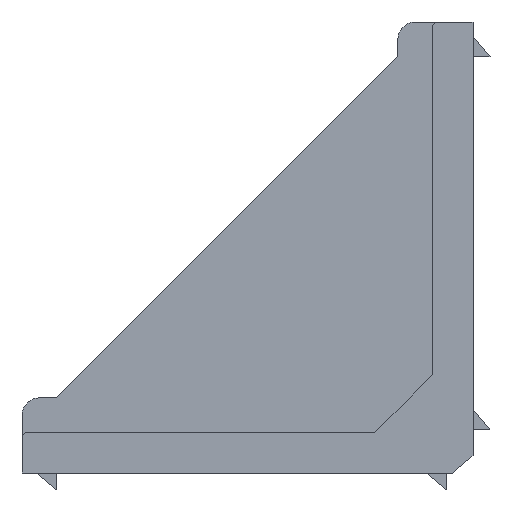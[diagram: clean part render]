
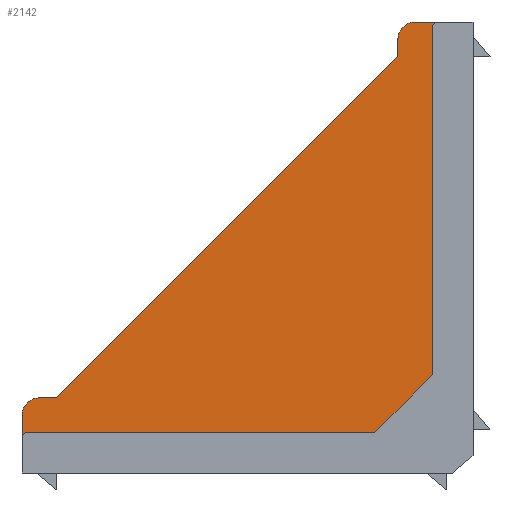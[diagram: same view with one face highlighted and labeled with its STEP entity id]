
A CAD part, left-side view. The second image highlights one B-rep face of the part: STEP entity #2142.
In plain terms, the highlighted planar face has unit normal (-1, 0, 0).
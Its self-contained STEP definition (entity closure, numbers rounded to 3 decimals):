
#38 = CARTESIAN_POINT ( 'NONE',  ( 16., 75., 13. ) ) ;
#50 = ORIENTED_EDGE ( 'NONE', *, *, #2059, .T. ) ;
#79 = PLANE ( 'NONE',  #1924 ) ;
#80 = ORIENTED_EDGE ( 'NONE', *, *, #1782, .T. ) ;
#94 = EDGE_CURVE ( 'NONE', #1054, #2112, #1499, .T. ) ;
#128 = EDGE_CURVE ( 'NONE', #408, #1773, #212, .T. ) ;
#139 = CARTESIAN_POINT ( 'NONE',  ( 16., 75., 10. ) ) ;
#142 = EDGE_CURVE ( 'NONE', #2112, #2266, #1666, .T. ) ;
#212 = CIRCLE ( 'NONE', #887, 1. ) ;
#225 = ORIENTED_EDGE ( 'NONE', *, *, #627, .F. ) ;
#340 = DIRECTION ( 'NONE',  ( 0., 0., -1. ) ) ;
#342 = DIRECTION ( 'NONE',  ( 0., 0., -1. ) ) ;
#376 = DIRECTION ( 'NONE',  ( 1., 0., 0. ) ) ;
#408 = VERTEX_POINT ( 'NONE', #2218 ) ;
#465 = EDGE_CURVE ( 'NONE', #2272, #1773, #2450, .T. ) ;
#475 = DIRECTION ( 'NONE',  ( 0., 0., -1. ) ) ;
#504 = EDGE_LOOP ( 'NONE', ( #711, #50, #1952, #2381, #2289, #1412, #225, #2078, #1134, #2371, #80 ) ) ;
#543 = VECTOR ( 'NONE', #1130, 1000. ) ;
#606 = CIRCLE ( 'NONE', #1852, 3. ) ;
#607 = LINE ( 'NONE', #2332, #543 ) ;
#627 = EDGE_CURVE ( 'NONE', #408, #898, #857, .T. ) ;
#642 = CARTESIAN_POINT ( 'NONE',  ( 16., 10., 75. ) ) ;
#661 = AXIS2_PLACEMENT_3D ( 'NONE', #1558, #376, #1764 ) ;
#678 = EDGE_CURVE ( 'NONE', #1054, #898, #1664, .T. ) ;
#711 = ORIENTED_EDGE ( 'NONE', *, *, #719, .F. ) ;
#719 = EDGE_CURVE ( 'NONE', #1370, #1830, #607, .T. ) ;
#729 = VECTOR ( 'NONE', #2409, 1000. ) ;
#755 = CIRCLE ( 'NONE', #661, 1. ) ;
#832 = DIRECTION ( 'NONE',  ( 0., 0., -1. ) ) ;
#844 = CARTESIAN_POINT ( 'NONE',  ( 16., 72., 13. ) ) ;
#850 = LINE ( 'NONE', #2141, #1854 ) ;
#857 = LINE ( 'NONE', #1205, #729 ) ;
#887 = AXIS2_PLACEMENT_3D ( 'NONE', #1778, #1761, #1747 ) ;
#891 = CARTESIAN_POINT ( 'NONE',  ( 16., 13., 72. ) ) ;
#898 = VERTEX_POINT ( 'NONE', #1214 ) ;
#900 = CARTESIAN_POINT ( 'NONE',  ( 16., 13., 75. ) ) ;
#951 = DIRECTION ( 'NONE',  ( 0., -1., 0. ) ) ;
#984 = DIRECTION ( 'NONE',  ( 0., -0.707, 0.707 ) ) ;
#1054 = VERTEX_POINT ( 'NONE', #38 ) ;
#1081 = DIRECTION ( 'NONE',  ( 0., 0., 1. ) ) ;
#1130 = DIRECTION ( 'NONE',  ( 0., -1., 0. ) ) ;
#1134 = ORIENTED_EDGE ( 'NONE', *, *, #465, .F. ) ;
#1143 = CARTESIAN_POINT ( 'NONE',  ( 16., 72., 13. ) ) ;
#1153 = VECTOR ( 'NONE', #1081, 1000. ) ;
#1186 = VECTOR ( 'NONE', #984, 1000. ) ;
#1188 = CARTESIAN_POINT ( 'NONE',  ( 16., 78., 13. ) ) ;
#1205 = CARTESIAN_POINT ( 'NONE',  ( 16., 78., 7. ) ) ;
#1214 = CARTESIAN_POINT ( 'NONE',  ( 16., 78., 10. ) ) ;
#1228 = CARTESIAN_POINT ( 'NONE',  ( 16., 7., 7. ) ) ;
#1370 = VERTEX_POINT ( 'NONE', #1762 ) ;
#1412 = ORIENTED_EDGE ( 'NONE', *, *, #678, .T. ) ;
#1422 = DIRECTION ( 'NONE',  ( 0., 1., 0. ) ) ;
#1450 = CARTESIAN_POINT ( 'NONE',  ( 16., 0., 0. ) ) ;
#1486 = VERTEX_POINT ( 'NONE', #1801 ) ;
#1499 = LINE ( 'NONE', #1188, #2323 ) ;
#1512 = DIRECTION ( 'NONE',  ( -1., 0., 0. ) ) ;
#1558 = CARTESIAN_POINT ( 'NONE',  ( 16., 6., 77. ) ) ;
#1662 = DIRECTION ( 'NONE',  ( 1., 0., 0. ) ) ;
#1664 = CIRCLE ( 'NONE', #2251, 3. ) ;
#1666 = LINE ( 'NONE', #1143, #1186 ) ;
#1679 = CARTESIAN_POINT ( 'NONE',  ( 16., 7., 7. ) ) ;
#1747 = DIRECTION ( 'NONE',  ( 0., 0., -1. ) ) ;
#1761 = DIRECTION ( 'NONE',  ( 1., 0., 0. ) ) ;
#1762 = CARTESIAN_POINT ( 'NONE',  ( 16., 10., 78. ) ) ;
#1764 = DIRECTION ( 'NONE',  ( 0., 0., -1. ) ) ;
#1773 = VERTEX_POINT ( 'NONE', #2155 ) ;
#1778 = CARTESIAN_POINT ( 'NONE',  ( 16., 77., 6. ) ) ;
#1782 = EDGE_CURVE ( 'NONE', #1486, #1830, #755, .T. ) ;
#1801 = CARTESIAN_POINT ( 'NONE',  ( 16., 7., 77. ) ) ;
#1830 = VERTEX_POINT ( 'NONE', #2167 ) ;
#1843 = VERTEX_POINT ( 'NONE', #900 ) ;
#1852 = AXIS2_PLACEMENT_3D ( 'NONE', #642, #2021, #832 ) ;
#1854 = VECTOR ( 'NONE', #342, 1000. ) ;
#1865 = VECTOR ( 'NONE', #1422, 1000. ) ;
#1924 = AXIS2_PLACEMENT_3D ( 'NONE', #1450, #1662, #475 ) ;
#1952 = ORIENTED_EDGE ( 'NONE', *, *, #2291, .F. ) ;
#1959 = EDGE_CURVE ( 'NONE', #1486, #2272, #850, .T. ) ;
#1999 = FACE_OUTER_BOUND ( 'NONE', #504, .T. ) ;
#2021 = DIRECTION ( 'NONE',  ( -1., 0., 0. ) ) ;
#2059 = EDGE_CURVE ( 'NONE', #1370, #1843, #606, .T. ) ;
#2078 = ORIENTED_EDGE ( 'NONE', *, *, #128, .T. ) ;
#2112 = VERTEX_POINT ( 'NONE', #844 ) ;
#2141 = CARTESIAN_POINT ( 'NONE',  ( 16., 7., 78. ) ) ;
#2142 = ADVANCED_FACE ( 'NONE', ( #1999 ), #79, .F. ) ;
#2155 = CARTESIAN_POINT ( 'NONE',  ( 16., 77., 7. ) ) ;
#2167 = CARTESIAN_POINT ( 'NONE',  ( 16., 6., 78. ) ) ;
#2218 = CARTESIAN_POINT ( 'NONE',  ( 16., 78., 6. ) ) ;
#2251 = AXIS2_PLACEMENT_3D ( 'NONE', #139, #1512, #340 ) ;
#2266 = VERTEX_POINT ( 'NONE', #2281 ) ;
#2272 = VERTEX_POINT ( 'NONE', #1679 ) ;
#2281 = CARTESIAN_POINT ( 'NONE',  ( 16., 13., 72. ) ) ;
#2285 = LINE ( 'NONE', #891, #1153 ) ;
#2289 = ORIENTED_EDGE ( 'NONE', *, *, #94, .F. ) ;
#2291 = EDGE_CURVE ( 'NONE', #2266, #1843, #2285, .T. ) ;
#2323 = VECTOR ( 'NONE', #951, 1000. ) ;
#2332 = CARTESIAN_POINT ( 'NONE',  ( 16., 13., 78. ) ) ;
#2371 = ORIENTED_EDGE ( 'NONE', *, *, #1959, .F. ) ;
#2381 = ORIENTED_EDGE ( 'NONE', *, *, #142, .F. ) ;
#2409 = DIRECTION ( 'NONE',  ( 0., 0., 1. ) ) ;
#2450 = LINE ( 'NONE', #1228, #1865 ) ;
